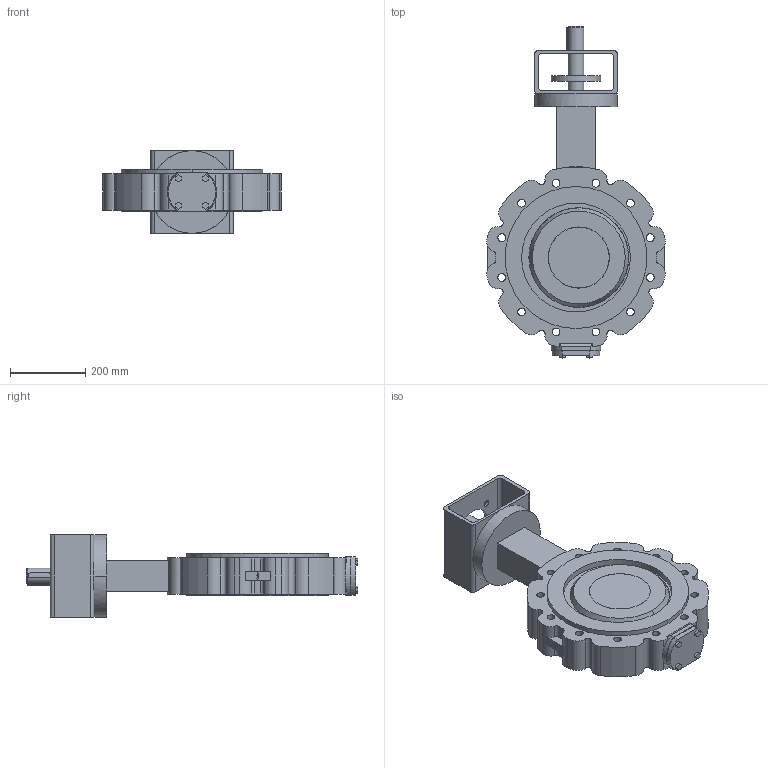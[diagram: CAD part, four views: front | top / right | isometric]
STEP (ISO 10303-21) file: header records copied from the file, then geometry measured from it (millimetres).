
FILE_DESCRIPTION( ( '' ), '1' );
FILE_NAME( 'F:/DE-SHS/TB/OR/04-Sonstiges/daten/files_3d/018_ZETRIX-PN10_freiesWellende/c000006362.stp', '2016-09-01T11:04:31', ( '' ), ( '' ), ' ', ' ', ' ' );
FILE_SCHEMA( ( 'CONFIG_CONTROL_DESIGN' ) );
Length unit declared in the file: millimetre
Products named in the file (1): 1
Bounding box: 475.69 x 884.4 x 220 mm (x, y, z)
Volume: 18715211.6 mm3; surface area: 1184362.1 mm2
Topology: 1 solids, 1 shells, 268 faces, 728 edges, 484 vertices
Faces by surface type: cylinder 153, plane 107, sphere 4, cone 4
Entity records: 9412 total; most frequent: CARTESIAN_POINT 2221, DIRECTION 1578, ORIENTED_EDGE 1456, EDGE_CURVE 728, AXIS2_PLACEMENT_3D 609, VERTEX_POINT 484, LINE 360, VECTOR 360
